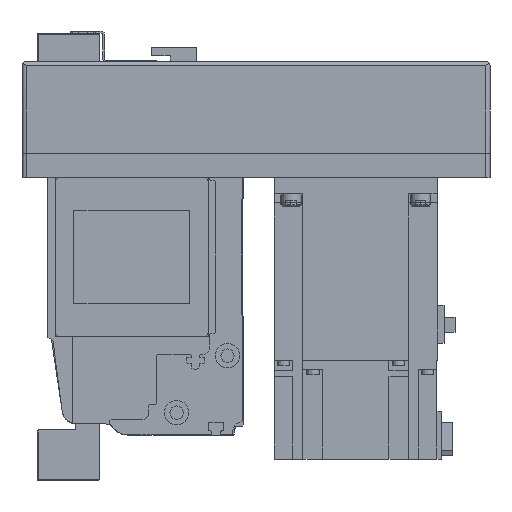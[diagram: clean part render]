
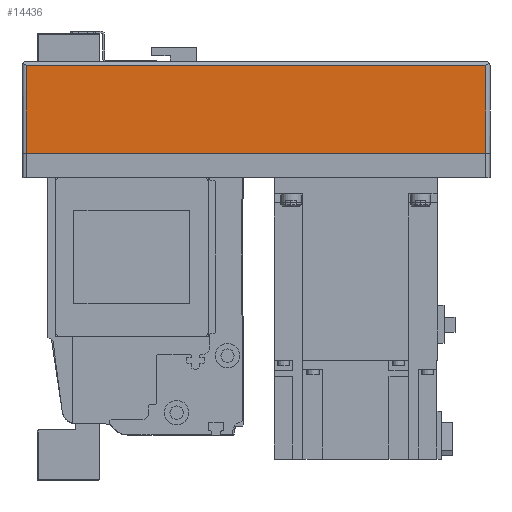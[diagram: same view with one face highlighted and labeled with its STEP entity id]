
A CAD part, left-side view. The second image highlights one B-rep face of the part: STEP entity #14436.
In plain terms, the highlighted planar face has unit normal (-1, 0, 0) as drawn and (0, -1, 0) by its records, which use the part's own axes.
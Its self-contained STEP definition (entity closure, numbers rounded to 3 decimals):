
#2481=ORIENTED_EDGE('',*,*,#5902,.F.);
#2482=ORIENTED_EDGE('',*,*,#5905,.T.);
#2483=ORIENTED_EDGE('',*,*,#5906,.T.);
#2484=ORIENTED_EDGE('',*,*,#5907,.F.);
#5902=EDGE_CURVE('',#7743,#7744,#9257,.T.);
#5905=EDGE_CURVE('',#7743,#7746,#9259,.T.);
#5906=EDGE_CURVE('',#7746,#7747,#9260,.T.);
#5907=EDGE_CURVE('',#7744,#7747,#9261,.T.);
#7743=VERTEX_POINT('',#22693);
#7744=VERTEX_POINT('',#22695);
#7746=VERTEX_POINT('',#22701);
#7747=VERTEX_POINT('',#22703);
#9257=LINE('',#22694,#10570);
#9259=LINE('',#22700,#10572);
#9260=LINE('',#22702,#10573);
#9261=LINE('',#22704,#10574);
#10570=VECTOR('',#18088,1000.);
#10572=VECTOR('',#18094,1000.);
#10573=VECTOR('',#18095,1000.);
#10574=VECTOR('',#18096,1000.);
#11694=EDGE_LOOP('',(#2481,#2482,#2483,#2484));
#12841=FACE_BOUND('',#11694,.T.);
#13838=PLANE('',#15504);
#14436=ADVANCED_FACE('',(#12841),#13838,.T.);
#15504=AXIS2_PLACEMENT_3D('',#22699,#18092,#18093);
#18088=DIRECTION('',(0.,0.,1.));
#18092=DIRECTION('',(0.,-1.,0.));
#18093=DIRECTION('',(0.,0.,-1.));
#18094=DIRECTION('',(1.,0.,0.));
#18095=DIRECTION('',(0.,0.,1.));
#18096=DIRECTION('',(1.,0.,0.));
#22693=CARTESIAN_POINT('',(-228.,-54.,-55.));
#22694=CARTESIAN_POINT('',(-228.,-54.,-57.));
#22695=CARTESIAN_POINT('',(-228.,-54.,-12.));
#22699=CARTESIAN_POINT('',(-228.,-54.,-57.));
#22700=CARTESIAN_POINT('',(-230.,-54.,-55.));
#22701=CARTESIAN_POINT('',(-2.,-54.,-55.));
#22702=CARTESIAN_POINT('',(-2.,-54.,-57.));
#22703=CARTESIAN_POINT('',(-2.,-54.,-12.));
#22704=CARTESIAN_POINT('',(-228.,-54.,-12.));
